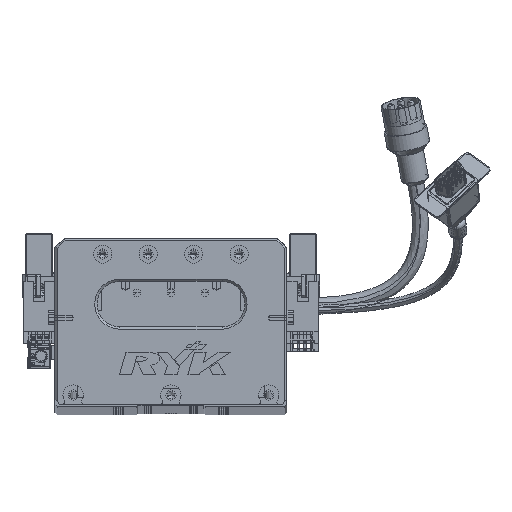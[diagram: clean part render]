
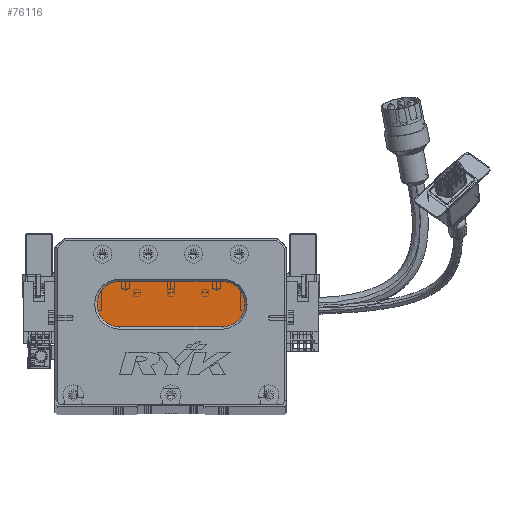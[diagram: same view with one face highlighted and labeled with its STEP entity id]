
A CAD part, top view. The second image highlights one B-rep face of the part: STEP entity #76116.
In plain terms, the highlighted planar face has unit normal (0, 0, 1) as drawn and (0, 0, -1) by its records, which use the part's own axes.
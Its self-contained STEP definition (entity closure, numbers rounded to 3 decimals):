
#3153 = DIRECTION ( 'NONE',  ( 0., 0., -1. ) ) ;
#4640 = ORIENTED_EDGE ( 'NONE', *, *, #5397, .T. ) ;
#5397 = EDGE_CURVE ( 'NONE', #15155, #22262, #31709, .T. ) ;
#6182 = AXIS2_PLACEMENT_3D ( 'NONE', #63251, #25003, #31632 ) ;
#7040 = ORIENTED_EDGE ( 'NONE', *, *, #78964, .T. ) ;
#8475 = AXIS2_PLACEMENT_3D ( 'NONE', #29654, #67924, #74234 ) ;
#9746 = DIRECTION ( 'NONE',  ( -1., 0., 0. ) ) ;
#10833 = ORIENTED_EDGE ( 'NONE', *, *, #62646, .T. ) ;
#15155 = VERTEX_POINT ( 'NONE', #51402 ) ;
#17363 = CIRCLE ( 'NONE', #6182, 10. ) ;
#18247 = CARTESIAN_POINT ( 'NONE',  ( 73.5, 34., 13. ) ) ;
#19092 = CARTESIAN_POINT ( 'NONE',  ( 28.5, 54., 13. ) ) ;
#19814 = FACE_OUTER_BOUND ( 'NONE', #68667, .T. ) ;
#21657 = CARTESIAN_POINT ( 'NONE',  ( 73.5, 34., 13. ) ) ;
#22262 = VERTEX_POINT ( 'NONE', #19092 ) ;
#25003 = DIRECTION ( 'NONE',  ( 0., 0., -1. ) ) ;
#29654 = CARTESIAN_POINT ( 'NONE',  ( 28.5, 44., 13. ) ) ;
#31632 = DIRECTION ( 'NONE',  ( -1., 0., 0. ) ) ;
#31709 = CIRCLE ( 'NONE', #8475, 10. ) ;
#34865 = AXIS2_PLACEMENT_3D ( 'NONE', #79622, #3153, #9746 ) ;
#35195 = EDGE_CURVE ( 'NONE', #22262, #51829, #77068, .T. ) ;
#36739 = DIRECTION ( 'NONE',  ( 0., 0., -1. ) ) ;
#41565 = LINE ( 'NONE', #18247, #55395 ) ;
#42270 = CARTESIAN_POINT ( 'NONE',  ( 73.5, 44., 13. ) ) ;
#43826 = DIRECTION ( 'NONE',  ( 1., 0., 0. ) ) ;
#44968 = CARTESIAN_POINT ( 'NONE',  ( 73.5, 54., 13. ) ) ;
#51402 = CARTESIAN_POINT ( 'NONE',  ( 18.5, 44., 13. ) ) ;
#51829 = VERTEX_POINT ( 'NONE', #44968 ) ;
#55074 = CIRCLE ( 'NONE', #34865, 10. ) ;
#55395 = VECTOR ( 'NONE', #80611, 1000. ) ;
#56124 = VERTEX_POINT ( 'NONE', #67817 ) ;
#60838 = DIRECTION ( 'NONE',  ( -1., 0., 0. ) ) ;
#61796 = AXIS2_PLACEMENT_3D ( 'NONE', #42270, #36739, #60838 ) ;
#62646 = EDGE_CURVE ( 'NONE', #76530, #56124, #41565, .T. ) ;
#63251 = CARTESIAN_POINT ( 'NONE',  ( 73.5, 44., 13. ) ) ;
#67817 = CARTESIAN_POINT ( 'NONE',  ( 28.5, 34., 13. ) ) ;
#67924 = DIRECTION ( 'NONE',  ( 0., 0., -1. ) ) ;
#68667 = EDGE_LOOP ( 'NONE', ( #78685, #10833, #7040, #4640, #79138 ) ) ;
#71145 = VECTOR ( 'NONE', #43826, 1000. ) ;
#74234 = DIRECTION ( 'NONE',  ( -1., 0., 0. ) ) ;
#74374 = PLANE ( 'NONE',  #61796 ) ;
#76116 = ADVANCED_FACE ( 'NONE', ( #19814 ), #74374, .T. ) ;
#76530 = VERTEX_POINT ( 'NONE', #21657 ) ;
#77068 = LINE ( 'NONE', #81756, #71145 ) ;
#78685 = ORIENTED_EDGE ( 'NONE', *, *, #79115, .T. ) ;
#78964 = EDGE_CURVE ( 'NONE', #56124, #15155, #55074, .T. ) ;
#79115 = EDGE_CURVE ( 'NONE', #51829, #76530, #17363, .T. ) ;
#79138 = ORIENTED_EDGE ( 'NONE', *, *, #35195, .T. ) ;
#79622 = CARTESIAN_POINT ( 'NONE',  ( 28.5, 44., 13. ) ) ;
#80611 = DIRECTION ( 'NONE',  ( -1., 0., 0. ) ) ;
#81756 = CARTESIAN_POINT ( 'NONE',  ( 73.5, 54., 13. ) ) ;
